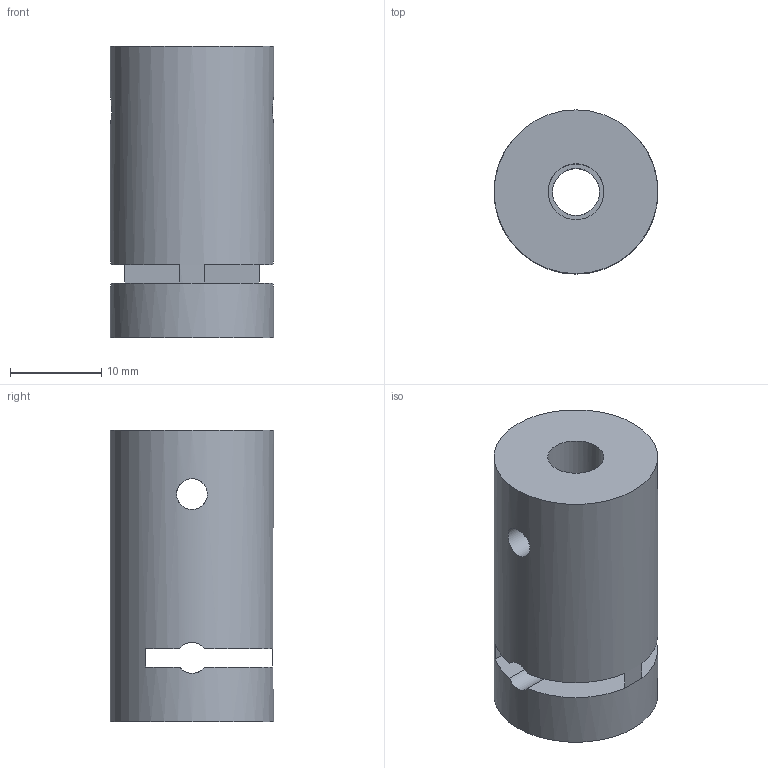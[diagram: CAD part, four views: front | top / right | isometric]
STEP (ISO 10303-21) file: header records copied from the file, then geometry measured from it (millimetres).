
FILE_DESCRIPTION(('Open CASCADE Model'),'2;1');
FILE_NAME('Open CASCADE Shape Model','2026-09-10T23:36:52',('Author'),( 'Open CASCADE'),'Open CASCADE STEP processor 7.9','Open CASCADE 7.9' ,'Unknown');
FILE_SCHEMA(('AUTOMOTIVE_DESIGN { 1 0 10303 214 1 1 1 1 }'));
Length unit declared in the file: millimetre
Products named in the file (1): Open CASCADE STEP translator 7.9 5
Bounding box: 18 x 18 x 32 mm (x, y, z)
Volume: 6800.3 mm3; surface area: 3255.9 mm2
Topology: 1 solids, 1 shells, 19 faces, 63 edges, 42 vertices
Faces by surface type: cylinder 10, plane 9
Full cylindrical faces by diameter (mm): 3.4 x2, 5.15 x2, 6.15 x1, 18 x1
Entity records: 3344 total; most frequent: CARTESIAN_POINT 2243, DIRECTION 155, ORIENTED_EDGE 126, PCURVE 126, DEFINITIONAL_REPRESENTATION 126, B_SPLINE_CURVE_WITH_KNOTS 84, LINE 69, VECTOR 69
